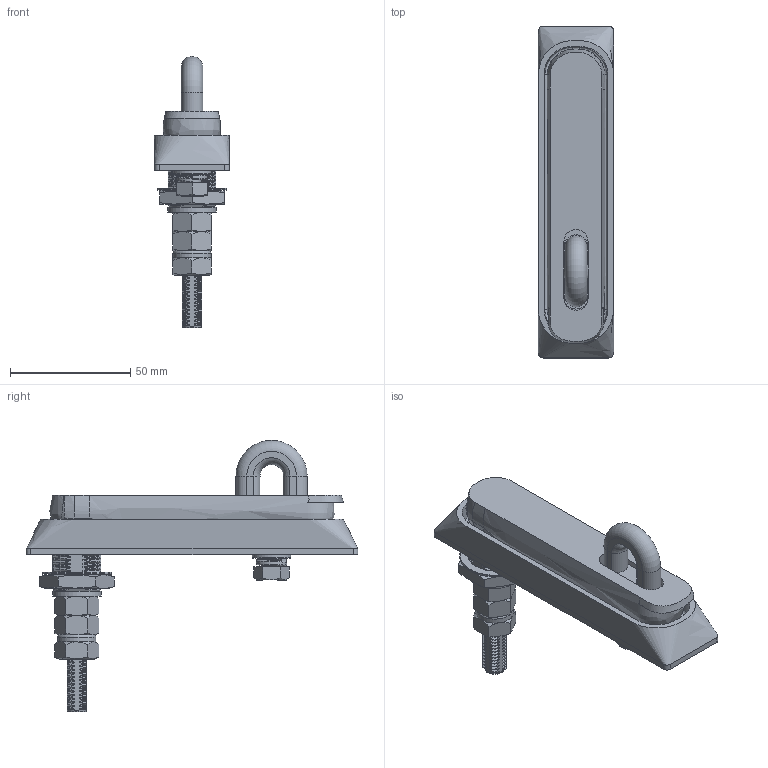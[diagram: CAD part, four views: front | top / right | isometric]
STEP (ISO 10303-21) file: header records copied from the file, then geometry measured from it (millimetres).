
FILE_DESCRIPTION (( 'STEP AP203' ), '1' );
FILE_NAME ('A-1860-1 不鏽鋼平面可掛鎖式把手.stp', '2022-05-04T01:04:23', ( '' ), ( '' ), 'SwSTEP 2.0', 'SolidWorks 2020', '' );
FILE_SCHEMA (( 'CONFIG_CONTROL_DESIGN' ));
Products named in the file (1): A-1860-1 不鏽鋼平面可掛鎖式把手
Bounding box: 31.2 x 137.8 x 112.54 mm (x, y, z)
Volume: 65826.3 mm3; surface area: 50423.6 mm2
Topology: 9 solids, 18 shells, 1453 faces, 4044 edges, 2683 vertices
Faces by surface type: bspline 698, plane 429, cylinder 256, cone 56, torus 14
Full cylindrical faces by diameter (mm): 2.8 x1, 4.2 x4, 7.6 x1, 8.3 x1, 8.6 x2, 8.65 x1, 9.95 x1, 10.15 x1, 10.6 x1, 11.55 x1, 11.65 x1, 12.2 x2, 12.7 x1, 13 x1, 13.2 x1, 13.9 x1, 15.7 x2, 15.8 x1, 15.85 x1, 16.2 x1, 16.25 x1, 20.15 x1, 21.9 x1, 23 x1, 26.85 x1, 28.9 x1
Entity records: 620207 total; most frequent: CARTESIAN_POINT 591410, ORIENTED_EDGE 7944, EDGE_CURVE 3972, DIRECTION 3388, VERTEX_POINT 2661, EDGE_LOOP 1591, FACE_OUTER_BOUND 1494, ADVANCED_FACE 1453
